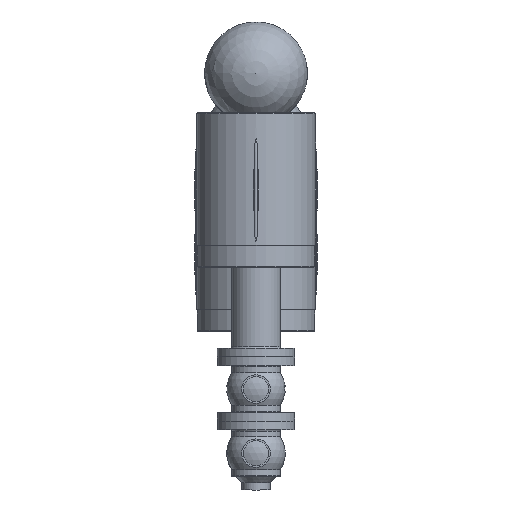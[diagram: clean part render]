
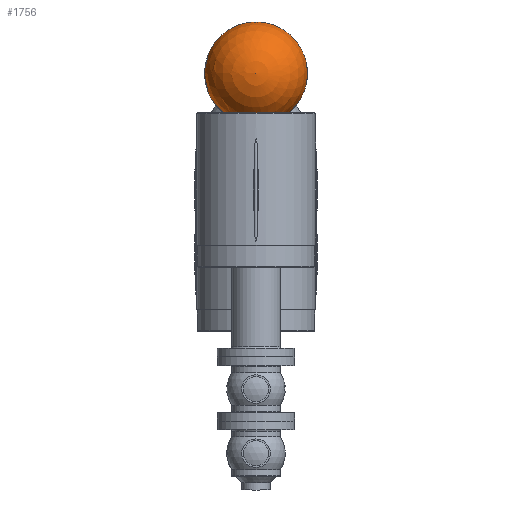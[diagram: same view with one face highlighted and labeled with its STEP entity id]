
A CAD part, front view. The second image highlights one B-rep face of the part: STEP entity #1756.
In plain terms, the highlighted spherical face has radius 72.5 mm.
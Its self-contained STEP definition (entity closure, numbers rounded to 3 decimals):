
#210=SPHERICAL_SURFACE('',#2125,72.5);
#233=FACE_BOUND('',#466,.T.);
#343=FACE_OUTER_BOUND('',#465,.T.);
#465=EDGE_LOOP('',(#1498,#1499));
#466=EDGE_LOOP('',(#1500));
#701=CIRCLE('',#2126,72.5);
#702=CIRCLE('',#2127,46.648);
#881=VERTEX_POINT('',#3567);
#882=VERTEX_POINT('',#3568);
#883=VERTEX_POINT('',#3570);
#1099=EDGE_CURVE('',#881,#882,#701,.T.);
#1100=EDGE_CURVE('',#883,#883,#702,.T.);
#1498=ORIENTED_EDGE('',*,*,#1099,.T.);
#1499=ORIENTED_EDGE('',*,*,#1099,.F.);
#1500=ORIENTED_EDGE('',*,*,#1100,.F.);
#1756=ADVANCED_FACE('',(#343,#233),#210,.T.);
#2125=AXIS2_PLACEMENT_3D('',#3566,#2639,#2640);
#2126=AXIS2_PLACEMENT_3D('',#3569,#2641,#2642);
#2127=AXIS2_PLACEMENT_3D('',#3571,#2643,#2644);
#2639=DIRECTION('center_axis',(0.,0.,1.));
#2640=DIRECTION('ref_axis',(1.,0.,0.));
#2641=DIRECTION('center_axis',(0.,-1.,0.));
#2642=DIRECTION('ref_axis',(-1.,0.,0.));
#2643=DIRECTION('center_axis',(0.,-1.,0.));
#2644=DIRECTION('ref_axis',(1.,0.,0.));
#3566=CARTESIAN_POINT('Origin',(150.,266.5,0.));
#3567=CARTESIAN_POINT('',(150.,266.5,72.5));
#3568=CARTESIAN_POINT('',(150.,266.5,-72.5));
#3569=CARTESIAN_POINT('Origin',(150.,266.5,0.));
#3570=CARTESIAN_POINT('',(196.648,211.,0.));
#3571=CARTESIAN_POINT('Origin',(150.,211.,0.));
